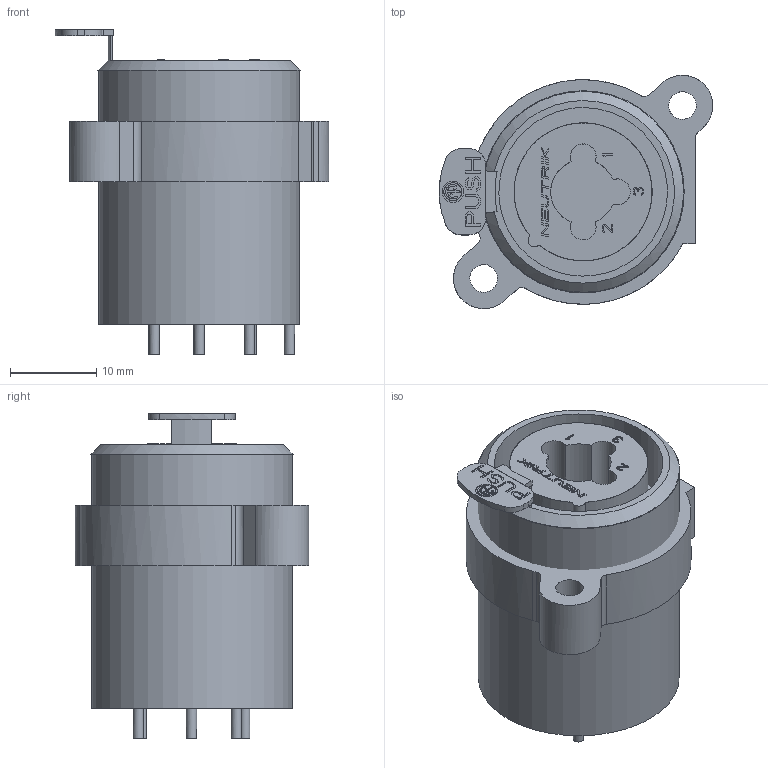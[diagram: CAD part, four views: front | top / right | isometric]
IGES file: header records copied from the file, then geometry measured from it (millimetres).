
Global section: file name: Conector en 3D_1; native system: AutoCAD 2023 - Español (Spanish),; preprocessor: Autodesk Translation Framework DWG producer (atf_dwg_producer); organization: unknown; date: 20230222.110826; units: millimetre
Bounding box: 31.64 x 27 x 37.6 mm (x, y, z)
Volume: 10791.8 mm3; surface area: 7979.3 mm2
Topology: 23 solids, 23 shells, 442 faces, 1167 edges, 790 vertices
Faces by surface type: bspline 441, revolution 1
